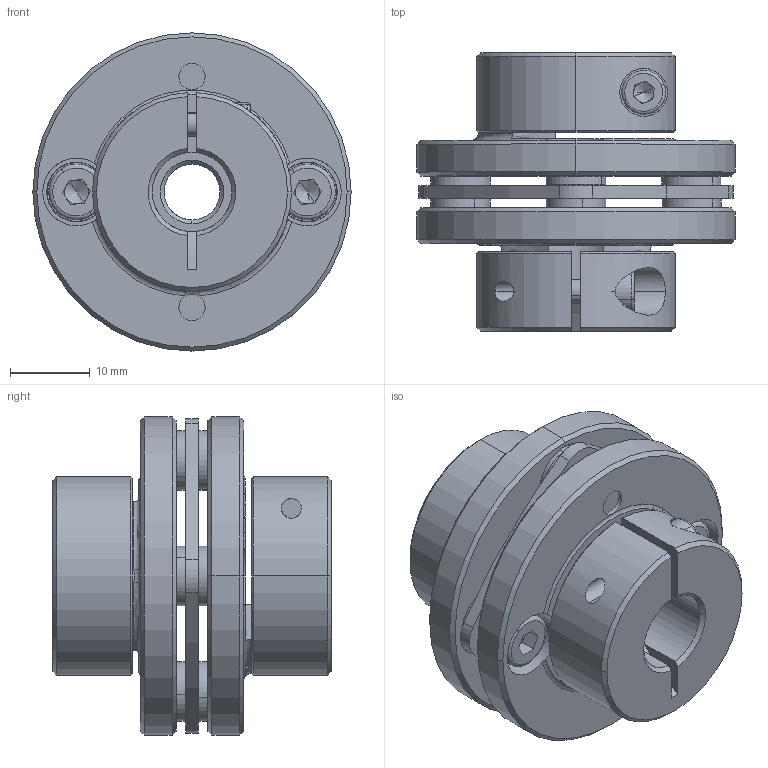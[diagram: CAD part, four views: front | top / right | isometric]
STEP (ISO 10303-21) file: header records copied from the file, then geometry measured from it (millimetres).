
FILE_DESCRIPTION (( 'STEP AP203' ), '1' );
FILE_NAME ('LE1-B-D40L35-7-10.STEP', '2021-11-01T02:07:36', ( '' ), ( '' ), 'SwSTEP 2.0', 'SolidWorks 2018', '' );
FILE_SCHEMA (( 'CONFIG_CONTROL_DESIGN' ));
Length unit declared in the file: millimetre
Products named in the file (1): LE1-B-D40L35-7-10
Bounding box: 40 x 35 x 40 mm (x, y, z)
Volume: 20187.7 mm3; surface area: 12763.3 mm2
Topology: 1 solids, 13 shells, 423 faces, 1021 edges, 630 vertices
Faces by surface type: cylinder 149, plane 140, cone 114, torus 18, bspline 2
Entity records: 12768 total; most frequent: CARTESIAN_POINT 2461, DIRECTION 2335, ORIENTED_EDGE 2018, EDGE_CURVE 1009, AXIS2_PLACEMENT_3D 952, VERTEX_POINT 630, CIRCLE 530, EDGE_LOOP 491
